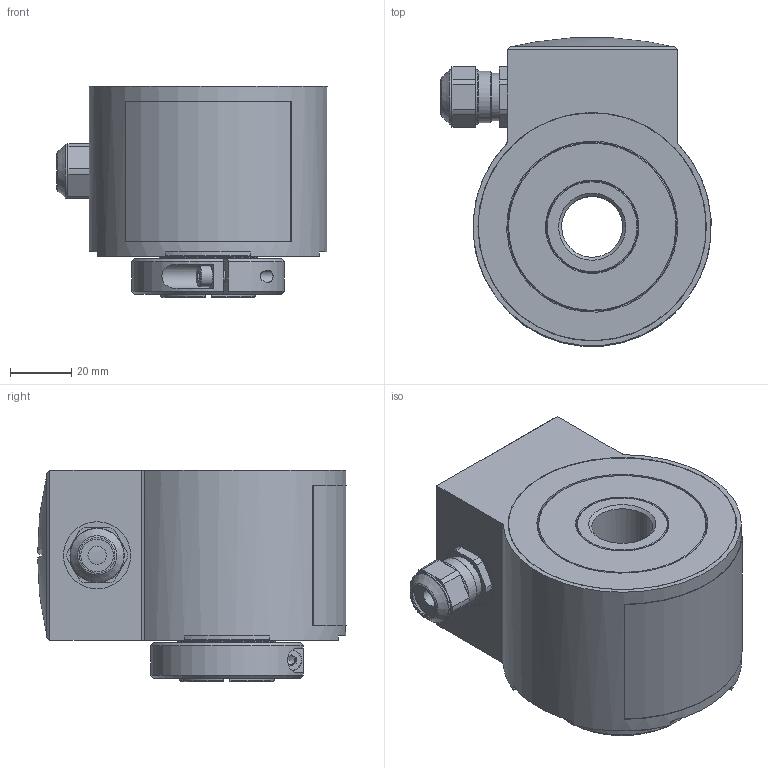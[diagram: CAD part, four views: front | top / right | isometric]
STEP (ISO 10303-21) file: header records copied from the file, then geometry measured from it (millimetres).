
FILE_DESCRIPTION (( 'STEP AP214' ), '1' );
FILE_NAME ('HW730 20mm.STEP', '2012-06-21T06:01:14', ( 'Camille Bauer AG' ), ( '' ), 'SwSTEP 2.0', 'SolidWorks 2010', '' );
FILE_SCHEMA (( 'AUTOMOTIVE_DESIGN' ));
Length unit declared in the file: millimetre
Products named in the file (1): HW730 20mm
Bounding box: 88.41 x 100.97 x 69.2 mm (x, y, z)
Volume: 342905.3 mm3; surface area: 99381.6 mm2
Topology: 10 solids, 12 shells, 285 faces, 671 edges, 436 vertices
Faces by surface type: plane 131, cylinder 80, cone 66, bspline 6, sphere 1, torus 1
Full cylindrical faces by diameter (mm): 3.3 x6, 4 x3, 6 x1, 7 x1, 10.7 x1, 12 x1, 12.1 x1, 13.5 x1, 13.93 x1, 14.5 x1, 15.59 x1, 16 x2, 16.2 x1, 16.79 x1, 17.8 x2, 20 x1, 22 x1, 29 x1, 30 x2, 30.07 x1, 30.2 x1, 32.025 x2, 32.072 x2, 32.08 x1, 35 x1, 35.003 x1, 44 x1, 45 x1, 51.5 x1, 52 x1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
Entity records: 11627 total; most frequent: CARTESIAN_POINT 2375, DIRECTION 1261, ORIENTED_EDGE 1074, EDGE_CURVE 537, AXIS2_PLACEMENT_3D 524, EDGE_LOOP 426, VERTEX_POINT 399, FACE_OUTER_BOUND 340
